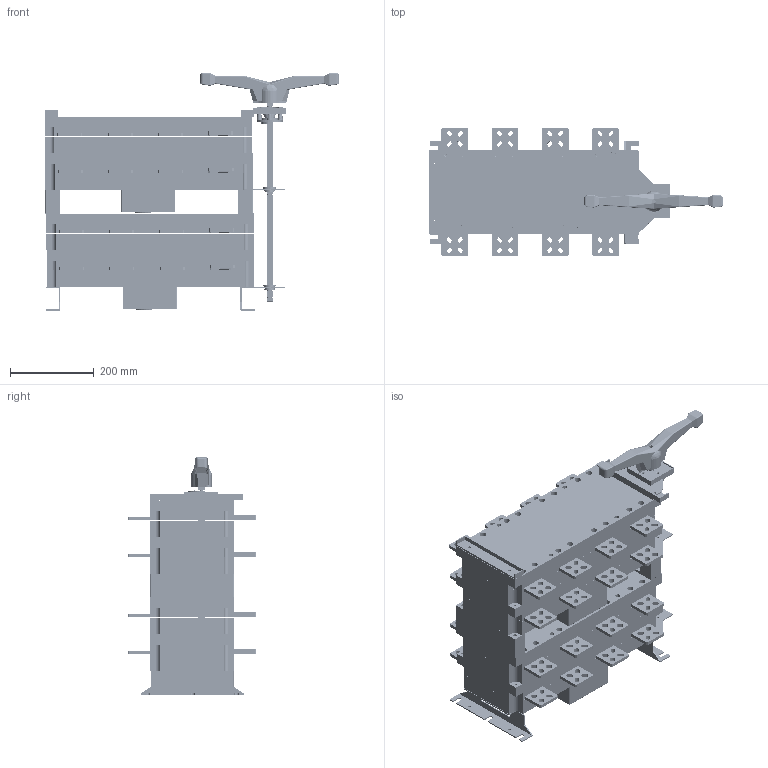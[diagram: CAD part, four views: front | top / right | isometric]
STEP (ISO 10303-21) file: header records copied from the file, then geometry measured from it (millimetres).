
FILE_DESCRIPTION(/* description */ (''),/* implementation_level */ '2;1');
FILE_NAME(/* name */ 'Z12000A4P.stp',/* time_stamp */ '2025-10-29T14:06:06+08:00',/* author */ (''),/* organization */ (''),/* preprocessor_version */ 'ST-DEVELOPER v16.7',/* originating_system */ 'SIEMENS PLM Software NX 12.0',/* authorisation */ '');
FILE_SCHEMA (('AUTOMOTIVE_DESIGN { 1 0 10303 214 3 1 1 1 }'));
Length unit declared in the file: millimetre
Products named in the file (25): 1133; 手柄; _model19-3; _model19-2; 长基铁板3; 长基铁板2; _model29-2; _model29-1; _model27-2; _model27; _model16; _model18; _model21; _model17; _model19; 长基铁板; _model24; _model14; _model13; _model12; 11; _model2; _asm3; _model25; _asm5
Assembly tree (52 placements, depth 4):
  _asm5
    _model2  x8
    11
    _model12
    _model13
    _asm3
      _model2  x8
      1133
      _model13
    _model14
    _model24
    _model25
      _model2  x8
      11
      _model12
      _model13
      _asm3
        _model2  x8
        1133
        _model13
    长基铁板
    _model19
    _model17
    _model21
    _model18
    _model16
    _model27
    _model27-2
    _model29-1
    _model29-2
    长基铁板2
    长基铁板3
    _model19-2
    _model19-3
    手柄
Bounding box: 703.49 x 307.2 x 566.91 mm (x, y, z)
Volume: 11341897.1 mm3; surface area: 3861074.5 mm2
Topology: 63 solids, 63 shells, 3662 faces, 9983 edges, 6620 vertices
Faces by surface type: plane 2342, cylinder 1115, bspline 185, sphere 12, torus 8
Full cylindrical faces by diameter (mm): 3 x1, 3.5 x4, 4 x12, 4.3 x8, 5.3 x2, 5.5 x3, 5.982 x1, 6 x97, 6.3 x16, 6.4 x16, 6.5 x11, 6.8 x4, 7 x4, 8.4 x2, 8.8 x4, 9 x1, 10.2 x4, 10.8 x4, 12.5 x16, 12.9 x16, 14.4 x16, 15 x64, 18.2 x4, 20 x4, 22 x4, 23.5 x3, 25.5 x6, 26 x3, 27 x4, 31 x3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
Entity records: 48432 total; most frequent: CARTESIAN_POINT 15398, DIRECTION 6513, ORIENTED_EDGE 6450, EDGE_CURVE 3225, LINE 2253, VECTOR 2253, VERTEX_POINT 2225, AXIS2_PLACEMENT_3D 2130
